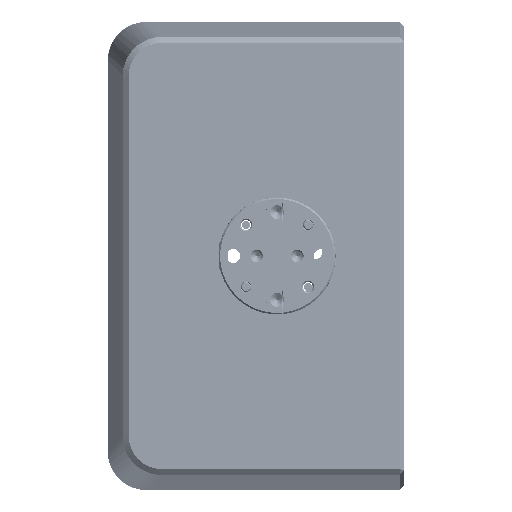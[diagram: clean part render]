
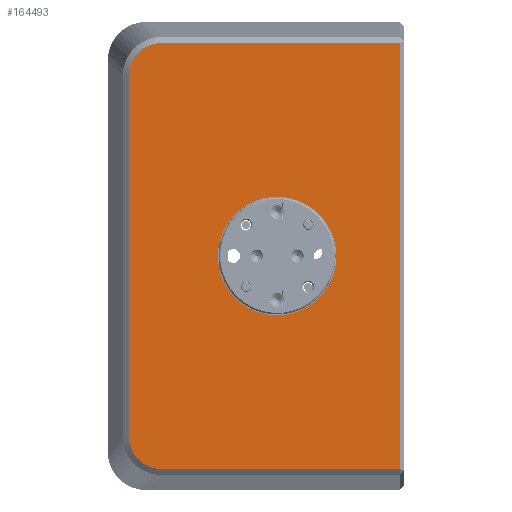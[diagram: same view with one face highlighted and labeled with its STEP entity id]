
A CAD part, left-side view. The second image highlights one B-rep face of the part: STEP entity #164493.
In plain terms, the highlighted planar face has unit normal (-1, 0, 0).
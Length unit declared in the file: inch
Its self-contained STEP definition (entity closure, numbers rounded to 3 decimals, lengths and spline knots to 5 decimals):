
#3365 = AXIS2_PLACEMENT_3D ( 'NONE', #239246, #138009, #347455 ) ;
#5960 = CARTESIAN_POINT ( 'NONE',  ( -4.25, -6.8667, 1.36508 ) ) ;
#7314 = AXIS2_PLACEMENT_3D ( 'NONE', #323924, #57657, #194209 ) ;
#10141 = LINE ( 'NONE', #223154, #137447 ) ;
#10280 = VERTEX_POINT ( 'NONE', #224476 ) ;
#29614 = VERTEX_POINT ( 'NONE', #239720 ) ;
#31784 = EDGE_CURVE ( 'NONE', #166085, #200639, #64406, .T. ) ;
#36260 = LINE ( 'NONE', #251027, #180512 ) ;
#44142 = CARTESIAN_POINT ( 'NONE',  ( -4.25, -6.8667, 1.36508 ) ) ;
#50665 = EDGE_CURVE ( 'NONE', #129878, #186474, #36260, .T. ) ;
#50735 = CARTESIAN_POINT ( 'NONE',  ( -4.25, -6.738, 1.32336 ) ) ;
#57657 = DIRECTION ( 'NONE',  ( -1., 0., 0. ) ) ;
#64406 = B_SPLINE_CURVE_WITH_KNOTS ( 'NONE', 3,
 ( #44142, #152391, #260664, #342253, #50735, #283794, #120508, #228778, #103886, #320500 ),
 .UNSPECIFIED., .F., .F.,
 ( 4, 2, 2, 2, 4 ),
 ( 0., 0.25, 0.5, 0.75, 1. ),
 .UNSPECIFIED. ) ;
#67831 = EDGE_CURVE ( 'NONE', #186474, #183124, #10141, .T. ) ;
#81538 = CARTESIAN_POINT ( 'NONE',  ( -4.25, -6.65778, -1.15616 ) ) ;
#90278 = ORIENTED_EDGE ( 'NONE', *, *, #264582, .T. ) ;
#92150 = CARTESIAN_POINT ( 'NONE',  ( -4.25, -8.39286, 1.36508 ) ) ;
#94343 = EDGE_CURVE ( 'NONE', #10280, #282634, #309443, .T. ) ;
#103886 = CARTESIAN_POINT ( 'NONE',  ( -4.25, -6.65778, 1.1837 ) ) ;
#109894 = CARTESIAN_POINT ( 'NONE',  ( -4.25, -6.81171, -1.35965 ) ) ;
#113869 = CARTESIAN_POINT ( 'NONE',  ( -4.25, -7.47286, 0. ) ) ;
#114539 = EDGE_CURVE ( 'NONE', #282634, #10280, #313366, .T. ) ;
#120508 = CARTESIAN_POINT ( 'NONE',  ( -4.25, -6.68401, 1.26162 ) ) ;
#129878 = VERTEX_POINT ( 'NONE', #296797 ) ;
#130025 = FACE_BOUND ( 'NONE', #146478, .T. ) ;
#135002 = VECTOR ( 'NONE', #224901, 39.37008 ) ;
#136646 = LINE ( 'NONE', #244936, #283386 ) ;
#137447 = VECTOR ( 'NONE', #276448, 39.37008 ) ;
#138009 = DIRECTION ( 'NONE',  ( -1., 0., 0. ) ) ;
#145521 = CARTESIAN_POINT ( 'NONE',  ( -4.25, -8.39286, -1.36508 ) ) ;
#146478 = EDGE_LOOP ( 'NONE', ( #321955, #214445 ) ) ;
#152391 = CARTESIAN_POINT ( 'NONE',  ( -4.25, -6.83921, 1.36508 ) ) ;
#159744 = CARTESIAN_POINT ( 'NONE',  ( -4.25, -6.68401, -1.26162 ) ) ;
#160154 = PLANE ( 'NONE',  #232819 ) ;
#161504 = CARTESIAN_POINT ( 'NONE',  ( -4.25, -6.8667, -1.36508 ) ) ;
#163254 = CARTESIAN_POINT ( 'NONE',  ( -4.25, -6.65778, -1.18364 ) ) ;
#164493 = ADVANCED_FACE ( 'NONE', ( #130025, #211616 ), #160154, .F. ) ;
#166085 = VERTEX_POINT ( 'NONE', #5960 ) ;
#168022 = CARTESIAN_POINT ( 'NONE',  ( -4.25, -7.60786, -0.38 ) ) ;
#168149 = LINE ( 'NONE', #308266, #135002 ) ;
#180512 = VECTOR ( 'NONE', #194193, 39.37008 ) ;
#183124 = VERTEX_POINT ( 'NONE', #92150 ) ;
#186341 = CARTESIAN_POINT ( 'NONE',  ( -4.25, -6.83915, -1.36508 ) ) ;
#186474 = VERTEX_POINT ( 'NONE', #145521 ) ;
#188107 = CARTESIAN_POINT ( 'NONE',  ( -4.25, -6.66321, -1.21114 ) ) ;
#191910 = EDGE_CURVE ( 'NONE', #183124, #166085, #168149, .T. ) ;
#193218 = ORIENTED_EDGE ( 'NONE', *, *, #50665, .T. ) ;
#194193 = DIRECTION ( 'NONE',  ( 0., -1., 0. ) ) ;
#194209 = DIRECTION ( 'NONE',  ( 0., 0., 1. ) ) ;
#200639 = VERTEX_POINT ( 'NONE', #278966 ) ;
#210786 = EDGE_LOOP ( 'NONE', ( #269524, #193218, #288677, #234173, #232901, #90278 ) ) ;
#211616 = FACE_OUTER_BOUND ( 'NONE', #210786, .T. ) ;
#214445 = ORIENTED_EDGE ( 'NONE', *, *, #114539, .F. ) ;
#214701 = CARTESIAN_POINT ( 'NONE',  ( -4.25, -6.738, -1.32336 ) ) ;
#218223 = DIRECTION ( 'NONE',  ( 0., 0., -1. ) ) ;
#223154 = CARTESIAN_POINT ( 'NONE',  ( -4.25, -8.39286, 0. ) ) ;
#223885 = DIRECTION ( 'NONE',  ( 0., 0., -1. ) ) ;
#224476 = CARTESIAN_POINT ( 'NONE',  ( -4.25, -7.60786, 0.38 ) ) ;
#224901 = DIRECTION ( 'NONE',  ( 0., 1., 0. ) ) ;
#228778 = CARTESIAN_POINT ( 'NONE',  ( -4.25, -6.66321, 1.21115 ) ) ;
#232819 = AXIS2_PLACEMENT_3D ( 'NONE', #113869, #325192, #223885 ) ;
#232901 = ORIENTED_EDGE ( 'NONE', *, *, #31784, .T. ) ;
#234173 = ORIENTED_EDGE ( 'NONE', *, *, #191910, .T. ) ;
#239246 = CARTESIAN_POINT ( 'NONE',  ( -4.25, -7.60786, 0. ) ) ;
#239720 = CARTESIAN_POINT ( 'NONE',  ( -4.25, -6.65778, -1.15616 ) ) ;
#241394 = CARTESIAN_POINT ( 'NONE',  ( -4.25, -6.76124, -1.33884 ) ) ;
#244936 = CARTESIAN_POINT ( 'NONE',  ( -4.25, -6.65778, 0. ) ) ;
#251027 = CARTESIAN_POINT ( 'NONE',  ( -4.25, -7.47286, -1.36508 ) ) ;
#260664 = CARTESIAN_POINT ( 'NONE',  ( -4.25, -6.81171, 1.35964 ) ) ;
#264582 = EDGE_CURVE ( 'NONE', #200639, #29614, #136646, .T. ) ;
#269524 = ORIENTED_EDGE ( 'NONE', *, *, #273248, .T. ) ;
#273248 = EDGE_CURVE ( 'NONE', #29614, #129878, #313674, .T. ) ;
#276448 = DIRECTION ( 'NONE',  ( 0., 0., 1. ) ) ;
#278966 = CARTESIAN_POINT ( 'NONE',  ( -4.25, -6.65778, 1.15616 ) ) ;
#282634 = VERTEX_POINT ( 'NONE', #168022 ) ;
#283386 = VECTOR ( 'NONE', #218223, 39.37008 ) ;
#283794 = CARTESIAN_POINT ( 'NONE',  ( -4.25, -6.6995, 1.28486 ) ) ;
#288677 = ORIENTED_EDGE ( 'NONE', *, *, #67831, .T. ) ;
#292889 = CARTESIAN_POINT ( 'NONE',  ( -4.25, -6.6995, -1.28485 ) ) ;
#296797 = CARTESIAN_POINT ( 'NONE',  ( -4.25, -6.8667, -1.36508 ) ) ;
#308266 = CARTESIAN_POINT ( 'NONE',  ( -4.25, -7.47286, 1.36508 ) ) ;
#309443 = CIRCLE ( 'NONE', #3365, 0.38 ) ;
#313366 = CIRCLE ( 'NONE', #7314, 0.38 ) ;
#313674 = B_SPLINE_CURVE_WITH_KNOTS ( 'NONE', 3,
 ( #81538, #163254, #188107, #159744, #292889, #214701, #241394, #109894, #186341, #161504 ),
 .UNSPECIFIED., .F., .F.,
 ( 4, 2, 2, 2, 4 ),
 ( 0., 0.25, 0.5, 0.75, 1. ),
 .UNSPECIFIED. ) ;
#320500 = CARTESIAN_POINT ( 'NONE',  ( -4.25, -6.65778, 1.15616 ) ) ;
#321955 = ORIENTED_EDGE ( 'NONE', *, *, #94343, .F. ) ;
#323924 = CARTESIAN_POINT ( 'NONE',  ( -4.25, -7.60786, 0. ) ) ;
#325192 = DIRECTION ( 'NONE',  ( 1., 0., 0. ) ) ;
#342253 = CARTESIAN_POINT ( 'NONE',  ( -4.25, -6.76124, 1.33885 ) ) ;
#347455 = DIRECTION ( 'NONE',  ( 0., 0., 1. ) ) ;
